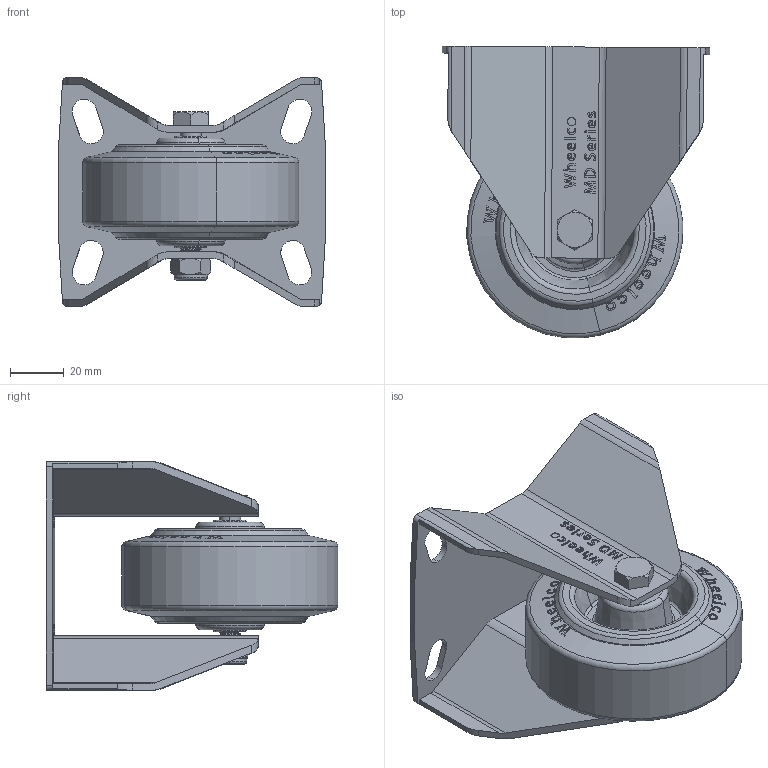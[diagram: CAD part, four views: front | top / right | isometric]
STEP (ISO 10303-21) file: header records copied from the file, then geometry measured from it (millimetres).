
FILE_DESCRIPTION (( 'STEP AP214' ), '1' );
FILE_NAME ('MDB80-F.step', '2024-01-21T22:15:09', ( '' ), ( '' ), 'SwSTEP 2.0', 'SolidWorks 2022', '' );
FILE_SCHEMA (( 'AUTOMOTIVE_DESIGN' ));
Length unit declared in the file: millimetre
Products named in the file (6): MCB80; SP12-8-41; MDB80-F; M8Nyloc; M8x55; MD80-F
Assembly tree (5 placements, depth 2):
  MDB80-F
    M8x55
    MD80-F
    M8Nyloc
    SP12-8-41
    MCB80
Bounding box: 99.61 x 108.49 x 85 mm (x, y, z)
Volume: 188972.5 mm3; surface area: 67808.7 mm2
Topology: 5 solids, 5 shells, 759 faces, 2021 edges, 1327 vertices
Faces by surface type: plane 323, bspline 211, cylinder 147, cone 42, torus 34, sphere 2
Entity records: 39760 total; most frequent: CARTESIAN_POINT 21607, ORIENTED_EDGE 4042, DIRECTION 2708, EDGE_CURVE 2021, VERTEX_POINT 1327, LINE 1018, VECTOR 1018, AXIS2_PLACEMENT_3D 845
